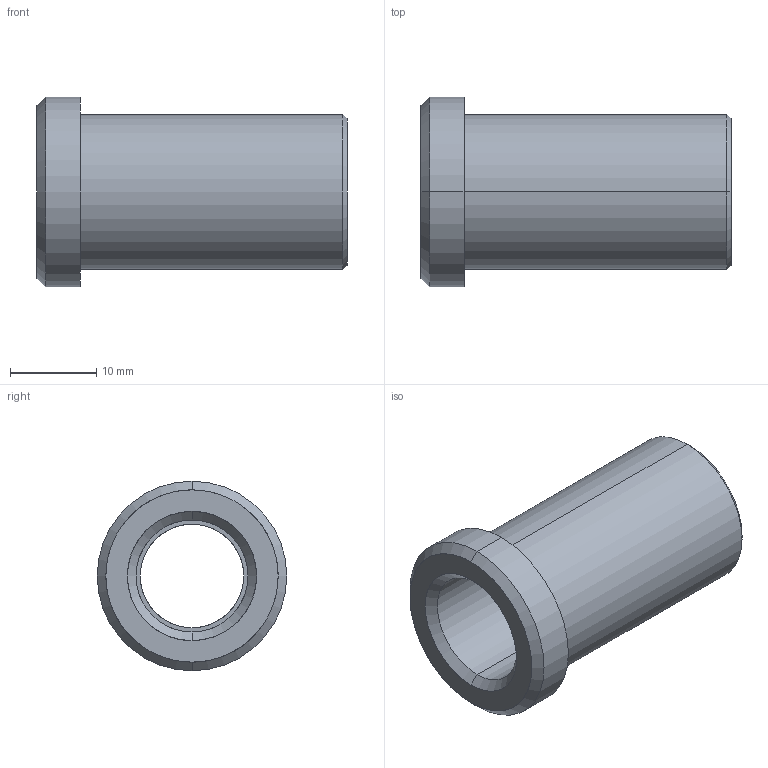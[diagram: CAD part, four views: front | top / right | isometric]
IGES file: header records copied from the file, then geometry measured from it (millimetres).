
Start section: START RECORD GO HERE.
Global section: file name: 353-12X36.igs; native system: DASSAULT SYSTEMES CATIA V5 R20 - www.3ds.com; preprocessor: CATIA Version 5 Release 20 ; author: Utente; organization: NB04-ASUS; date: 20210421.142138; units: millimetre
Bounding box: 36 x 22 x 22 mm (x, y, z)
Surface area: 3930.5 mm2 (no closed solid volume)
Topology: 0 solids, 0 shells, 20 faces, 128 edges, 128 vertices
Faces by surface type: revolution 16, plane 4
